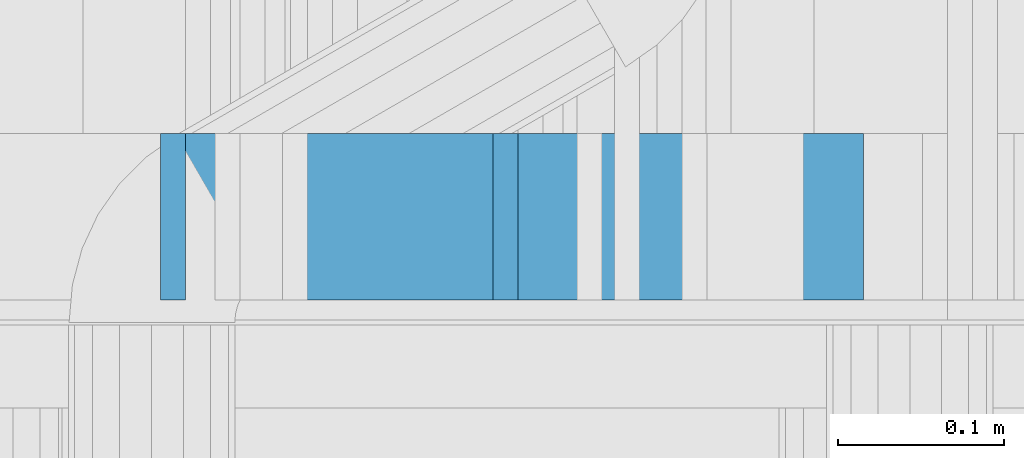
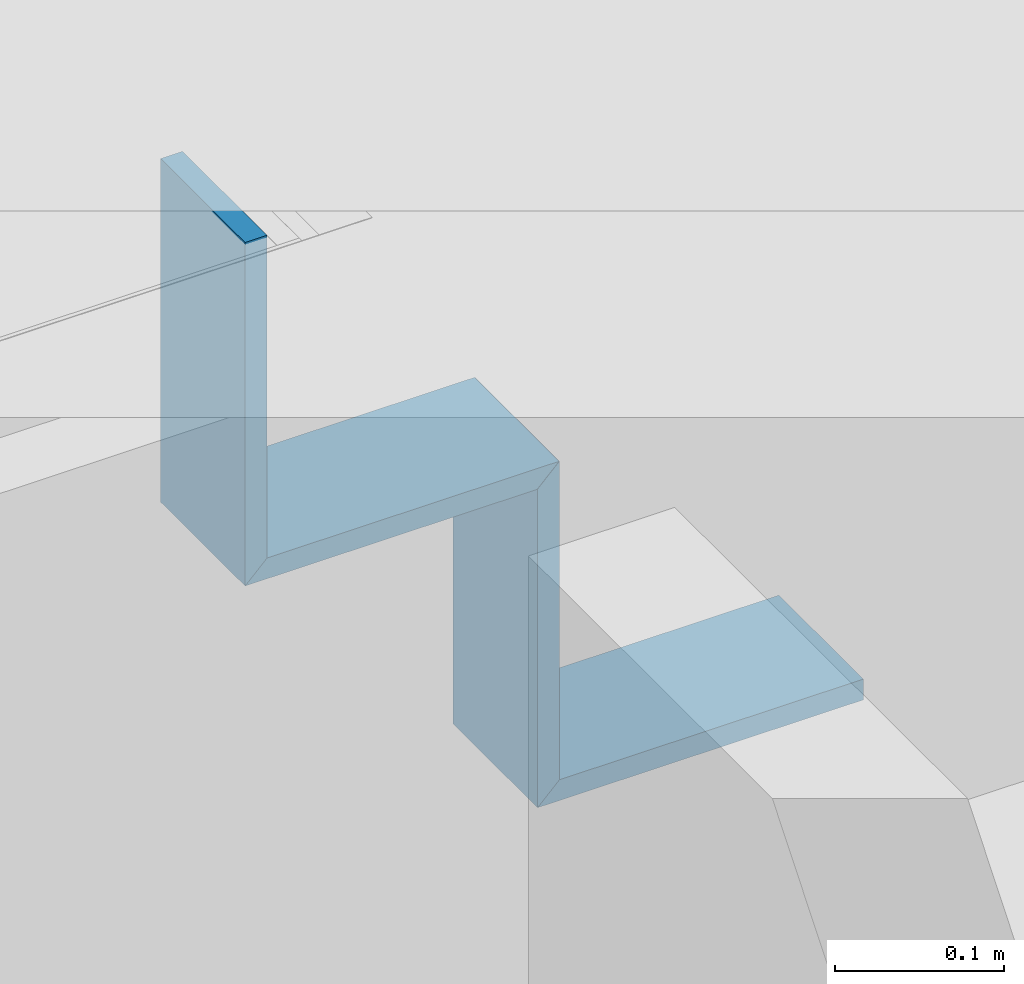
# One storey, part 184 of 583: 4 building element parts, 4 elements without a shape of their own.
"""IFC2X3 building model written with IfcOpenShell, lengths in metres."""

import ifcopenshell
import ifcopenshell.guid

model = None  # the IFC model being written
_history = None  # IfcOwnerHistory: only IFC2X3 demands one
_inside = {}  # id of a spatial element -> (the spatial element, [elements in it])
_under = {}  # id of a project, library or spatial element -> (it, [spatial elements below it])
_declared = {}  # id of a project -> (the project, [libraries it declares])
_typed = {}  # id of a type object -> (the type object, [elements of that type])
_made_of = {}  # id of a material, layer set ... -> (it, [elements and type objects made of it])


def new_model(schema):
    """Start an empty IFC model of exactly this schema.

    Asked for "IFC4X3", IfcOpenShell would pick the latest addendum, in which some entities
    have other attributes; the version numbers below select the first issue.
    IFC2X3 requires an IfcOwnerHistory on every rooted entity: one is made here for all.
    """
    global model, _history
    if schema == "IFC4X3":
        model = ifcopenshell.file(schema_version=(4, 3, 0, 0))
    else:
        model = ifcopenshell.file(schema=schema)
    _inside.clear()
    _under.clear()
    _declared.clear()
    _typed.clear()
    _made_of.clear()
    _history = None
    if model.schema == "IFC2X3":
        org = make("IfcOrganization", Name="unknown")
        user = make(
            "IfcPersonAndOrganization",
            ThePerson=make("IfcPerson", FamilyName="unknown"),
            TheOrganization=org,
        )
        app = make(
            "IfcApplication",
            ApplicationDeveloper=org,
            Version="unknown",
            ApplicationFullName="unknown",
            ApplicationIdentifier="unknown",
        )
        _history = make(
            "IfcOwnerHistory",
            OwningUser=user,
            OwningApplication=app,
            ChangeAction="ADDED",
            CreationDate=0,
        )
    return model


def make(cls, **values):
    """One entity of the class cls with the attributes given. An attribute that is None is left unset."""
    return model.create_entity(
        cls, **{name: value for name, value in values.items() if value is not None}
    )


def entity(cls, *values):
    """Any entity or typed value of the class cls, its attributes in the order of the schema. None: left unset."""
    e = model.create_entity(cls)
    for i, value in enumerate(values):
        if value is not None:
            e[i] = value
    return e


def rooted(cls, **values):
    """An entity with a GlobalId (a new one), such as an element, a storey or a relation."""
    return make(cls, GlobalId=ifcopenshell.guid.new(), OwnerHistory=_history, **values)


def si_unit(unit_type, name, prefix=None):
    """IfcSIUnit, for example si_unit("LENGTHUNIT", "METRE", prefix="MILLI")."""
    return make("IfcSIUnit", UnitType=unit_type, Prefix=prefix, Name=name)


def converted_unit(unit_type, name, factor, base, dimensions=None, offset=None):
    """IfcConversionBasedUnit, such as the inch: factor (a typed value) times the base unit."""
    return make(
        "IfcConversionBasedUnit"
        if offset is None
        else "IfcConversionBasedUnitWithOffset",
        ConversionOffset=offset,
        Dimensions=None
        if dimensions is None
        else entity("IfcDimensionalExponents", *dimensions),
        UnitType=unit_type,
        Name=name,
        ConversionFactor=make(
            "IfcMeasureWithUnit", ValueComponent=factor, UnitComponent=base
        ),
    )


def derived_unit(unit_type, elements):
    """IfcDerivedUnit: a product of units, each with its exponent."""
    return make(
        "IfcDerivedUnit",
        Elements=[
            make("IfcDerivedUnitElement", Unit=unit, Exponent=power)
            for unit, power in elements
        ],
        UnitType=unit_type,
    )


def money_unit(currency):
    """IfcMonetaryUnit."""
    return make("IfcMonetaryUnit", Currency=currency)


def assignment(units):
    """IfcUnitAssignment: the units of a project."""
    return None if units is None else make("IfcUnitAssignment", Units=units)


def point(xyz):
    """IfcCartesianPoint."""
    return None if xyz is None else make("IfcCartesianPoint", Coordinates=xyz)


def direction(xyz):
    """IfcDirection."""
    return None if xyz is None else make("IfcDirection", DirectionRatios=xyz)


def frame(location, z_axis=None, x_axis=None):
    """IfcAxis2Placement3D, a coordinate frame: its origin and axes. An axis left out is left unset."""
    return make(
        "IfcAxis2Placement3D",
        Location=point(location),
        Axis=direction(z_axis),
        RefDirection=direction(x_axis),
    )


def origin_with_axes():
    """The frame at (0, 0, 0) with the z axis (0, 0, 1) and the x axis (1, 0, 0) written out."""
    return frame((0.0, 0.0, 0.0), z_axis=(0.0, 0.0, 1.0), x_axis=(1.0, 0.0, 0.0))


def place(relative_to, where):
    """IfcLocalPlacement: puts the frame where relative to a parent placement (None: the world)."""
    return make(
        "IfcLocalPlacement", PlacementRelTo=relative_to, RelativePlacement=where
    )


def context(
    kind, dimensions, precision=None, world=None, true_north=None, identifier=None
):
    """IfcGeometricRepresentationContext, for example the 3D "Model" context."""
    return make(
        "IfcGeometricRepresentationContext",
        ContextIdentifier=identifier,
        ContextType=kind,
        CoordinateSpaceDimension=dimensions,
        Precision=precision,
        WorldCoordinateSystem=world,
        TrueNorth=true_north,
    )


def subcontext(parent, identifier, kind, view, scale=None):
    """IfcGeometricRepresentationSubContext, for example "Body" below "Model"."""
    return make(
        "IfcGeometricRepresentationSubContext",
        ContextIdentifier=identifier,
        ContextType=kind,
        ParentContext=parent,
        TargetScale=scale,
        TargetView=view,
    )


def project(units=None, contexts=None):
    """IfcProject with its units and contexts."""
    return rooted(
        "IfcProject",
        Name="project",
        RepresentationContexts=contexts,
        UnitsInContext=assignment(units),
    )


def spatial(cls, under=None, at=None, **own):
    """A site, building, storey or space (cls), placed at a placement, below another one or the project."""
    s = rooted(cls, ObjectPlacement=at, **own)
    if under is not None:
        _under.setdefault(under.id(), (under, []))[1].append(s)
    return s


def polyline(points):
    """IfcPolyline through the points."""
    return make("IfcPolyline", Points=[point(p) for p in points])


def outline(outer, holes=None, kind="AREA"):
    """IfcArbitraryClosedProfileDef: a profile drawn as a closed curve; with holes, ...WithVoids."""
    if holes is None:
        return make("IfcArbitraryClosedProfileDef", ProfileType=kind, OuterCurve=outer)
    return make(
        "IfcArbitraryProfileDefWithVoids",
        ProfileType=kind,
        OuterCurve=outer,
        InnerCurves=holes,
    )


def extrude(swept, where, along, depth):
    """IfcExtrudedAreaSolid: the profile swept, set in the frame where, extruded along a direction by depth."""
    return make(
        "IfcExtrudedAreaSolid",
        SweptArea=swept,
        Position=where,
        ExtrudedDirection=direction(along),
        Depth=depth,
    )


def shape(context_of_items, identifier, shape_type, items):
    """IfcShapeRepresentation: the items that make up one representation, for example the "Body"."""
    return make(
        "IfcShapeRepresentation",
        ContextOfItems=context_of_items,
        RepresentationIdentifier=identifier,
        RepresentationType=shape_type,
        Items=items,
    )


def material(Name=None, Category=None):
    """IfcMaterial."""
    return make("IfcMaterial", Name=Name, Category=Category)


def made_of(thing, what):
    """Note that an element or type object is made of a material, layer set ...; save() writes the relation."""
    if what is not None:
        _made_of.setdefault(what.id(), (what, []))[1].append(thing)
    return thing


def type_object(cls, material=None, **own):
    """A type object (cls), such as IfcWallType, which elements share."""
    return made_of(rooted(cls, **own), material)


def element(
    cls,
    number,
    at=None,
    inside=None,
    cuts=None,
    type_object=None,
    material=None,
    context=None,
    identifier="Body",
    shape_type=None,
    held_by="IfcProductDefinitionShape",
    body=None,
    shapes=None,
    **own,
):
    """One element of the class cls, such as IfcWall. Its Tag is "e" and its number.

    at: its placement. inside: the storey or other place that contains it. cuts: it is an
    opening in that element (IfcRelVoidsElement). A single representation is given by context,
    identifier, shape_type and body (its items); several are given by shapes. held_by: the class
    of the entity that holds the representations. save() writes the other relations.
    """
    e = rooted(cls, Tag="e%d" % number, ObjectPlacement=at, **own)
    if body is not None:
        shapes = [shape(context, identifier, shape_type, body)]
    if shapes is not None:
        e.Representation = make(held_by, Representations=shapes)
    if inside is not None:
        _inside.setdefault(inside.id(), (inside, []))[1].append(e)
    if cuts is not None:
        rooted(
            "IfcRelVoidsElement", RelatingBuildingElement=cuts, RelatedOpeningElement=e
        )
    if type_object is not None:
        _typed.setdefault(type_object.id(), (type_object, []))[1].append(e)
    return made_of(e, material)


def aggregate(whole, parts):
    """IfcRelAggregates: a whole, such as a stair, and the parts it consists of."""
    return rooted("IfcRelAggregates", RelatingObject=whole, RelatedObjects=parts)


def save(model, path):
    """Write the relations noted so far, then the file.

    IfcRelAggregates (storeys below a building ...), IfcRelContainedInSpatialStructure (elements
    in a storey), IfcRelDefinesByType, IfcRelAssociatesMaterial and IfcRelDeclares: one each for
    every whole, place, type object, material and project.
    """
    for whole, parts in _under.values():
        aggregate(whole, parts)
    for where, things in _inside.values():
        rooted(
            "IfcRelContainedInSpatialStructure",
            RelatedElements=things,
            RelatingStructure=where,
        )
    for kind, things in _typed.values():
        rooted("IfcRelDefinesByType", RelatedObjects=things, RelatingType=kind)
    for what, things in _made_of.values():
        rooted("IfcRelAssociatesMaterial", RelatedObjects=things, RelatingMaterial=what)
    for by, libraries in _declared.values():
        rooted("IfcRelDeclares", RelatingContext=by, RelatedDefinitions=libraries)
    model.write(path)


model = new_model("IFC2X3")

# Units and contexts
model_context = context("Model", 3, precision=1e-05, world=origin_with_axes(), true_north=direction((0.0, 1.0)))
body_context = subcontext(model_context, "Body", "Model", "MODEL_VIEW", scale=1.0)
ifc_project = project(units=[si_unit("LENGTHUNIT", "METRE"), si_unit("AREAUNIT", "SQUARE_METRE"), si_unit("VOLUMEUNIT", "CUBIC_METRE"), si_unit("ABSORBEDDOSEUNIT", "GRAY"), si_unit("AMOUNTOFSUBSTANCEUNIT", "MOLE"), si_unit("DOSEEQUIVALENTUNIT", "SIEVERT"), si_unit("ELECTRICCAPACITANCEUNIT", "FARAD"), si_unit("ELECTRICCHARGEUNIT", "COULOMB"), si_unit("ELECTRICCONDUCTANCEUNIT", "SIEMENS"), si_unit("ELECTRICCURRENTUNIT", "AMPERE"), si_unit("ELECTRICRESISTANCEUNIT", "OHM"), si_unit("ELECTRICVOLTAGEUNIT", "VOLT"), si_unit("ENERGYUNIT", "JOULE"), si_unit("FORCEUNIT", "NEWTON"), si_unit("FREQUENCYUNIT", "HERTZ"), si_unit("ILLUMINANCEUNIT", "LUX"), si_unit("INDUCTANCEUNIT", "HENRY"), si_unit("LUMINOUSFLUXUNIT", "LUMEN"), si_unit("LUMINOUSINTENSITYUNIT", "CANDELA"), si_unit("MAGNETICFLUXDENSITYUNIT", "TESLA"), si_unit("MAGNETICFLUXUNIT", "WEBER"), si_unit("MASSUNIT", "GRAM"), converted_unit("PLANEANGLEUNIT", "degree", entity("IfcReal", 0.0174532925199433), si_unit("PLANEANGLEUNIT", "RADIAN"), dimensions=[0, 0, 0, 0, 0, 0, 0]), si_unit("POWERUNIT", "WATT"), si_unit("PRESSUREUNIT", "PASCAL"), si_unit("RADIOACTIVITYUNIT", "BECQUEREL"), si_unit("SOLIDANGLEUNIT", "STERADIAN"), si_unit("THERMODYNAMICTEMPERATUREUNIT", "KELVIN"), si_unit("TIMEUNIT", "SECOND"), derived_unit("ACCELERATIONUNIT", [(si_unit("LENGTHUNIT", "METRE"), 1), (si_unit("TIMEUNIT", "SECOND"), -2)]), derived_unit("ANGULARVELOCITYUNIT", [(converted_unit("PLANEANGLEUNIT", "degree", entity("IfcReal", 0.0174532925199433), si_unit("PLANEANGLEUNIT", "RADIAN"), dimensions=[0, 0, 0, 0, 0, 0, 0]), 1), (si_unit("TIMEUNIT", "SECOND"), -1)]), derived_unit("CURVATUREUNIT", [(converted_unit("PLANEANGLEUNIT", "degree", entity("IfcReal", 0.0174532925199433), si_unit("PLANEANGLEUNIT", "RADIAN"), dimensions=[0, 0, 0, 0, 0, 0, 0]), 1), (si_unit("LENGTHUNIT", "METRE"), -1)]), derived_unit("DYNAMICVISCOSITYUNIT", [(si_unit("PRESSUREUNIT", "PASCAL"), 1), (si_unit("TIMEUNIT", "SECOND"), 1)]), derived_unit("HEATFLUXDENSITYUNIT", [(si_unit("POWERUNIT", "WATT"), 1), (si_unit("LENGTHUNIT", "METRE"), -2)]), derived_unit("HEATINGVALUEUNIT", [(si_unit("ENERGYUNIT", "JOULE"), 1), (si_unit("MASSUNIT", "GRAM"), -1)]), derived_unit("INTEGERCOUNTRATEUNIT", [(si_unit("TIMEUNIT", "SECOND"), -1)]), derived_unit("IONCONCENTRATIONUNIT", [(si_unit("MASSUNIT", "GRAM"), 1), (si_unit("VOLUMEUNIT", "CUBIC_METRE"), -1)]), derived_unit("ISOTHERMALMOISTURECAPACITYUNIT", [(si_unit("VOLUMEUNIT", "CUBIC_METRE"), 1), (si_unit("MASSUNIT", "GRAM"), -1)]), derived_unit("KINEMATICVISCOSITYUNIT", [(si_unit("AREAUNIT", "SQUARE_METRE"), 1), (si_unit("TIMEUNIT", "SECOND"), -1)]), derived_unit("LINEARFORCEUNIT", [(si_unit("FORCEUNIT", "NEWTON"), 1), (si_unit("LENGTHUNIT", "METRE"), -1)]), derived_unit("LINEARMOMENTUNIT", [(si_unit("FORCEUNIT", "NEWTON"), 1), (si_unit("LENGTHUNIT", "METRE"), -1)]), derived_unit("LINEARSTIFFNESSUNIT", [(si_unit("FORCEUNIT", "NEWTON"), 1), (si_unit("LENGTHUNIT", "METRE"), -1)]), derived_unit("LINEARVELOCITYUNIT", [(si_unit("LENGTHUNIT", "METRE"), 1), (si_unit("TIMEUNIT", "SECOND"), -1)]), derived_unit("LUMINOUSINTENSITYDISTRIBUTIONUNIT", [(si_unit("LUMINOUSINTENSITYUNIT", "CANDELA"), 1), (si_unit("LUMINOUSFLUXUNIT", "LUMEN"), -1)]), derived_unit("MASSDENSITYUNIT", [(si_unit("MASSUNIT", "GRAM"), 1), (si_unit("VOLUMEUNIT", "CUBIC_METRE"), -1)]), derived_unit("MASSFLOWRATEUNIT", [(si_unit("MASSUNIT", "GRAM"), 1), (si_unit("TIMEUNIT", "SECOND"), -1)]), derived_unit("MASSPERLENGTHUNIT", [(si_unit("MASSUNIT", "GRAM"), 1), (si_unit("LENGTHUNIT", "METRE"), -1)]), derived_unit("MODULUSOFELASTICITYUNIT", [(si_unit("FORCEUNIT", "NEWTON"), 1), (si_unit("AREAUNIT", "SQUARE_METRE"), -1)]), derived_unit("MODULUSOFLINEARSUBGRADEREACTIONUNIT", [(si_unit("FORCEUNIT", "NEWTON"), 1), (si_unit("LENGTHUNIT", "METRE"), -2)]), derived_unit("MODULUSOFROTATIONALSUBGRADEREACTIONUNIT", [(si_unit("FORCEUNIT", "NEWTON"), 1), (si_unit("LENGTHUNIT", "METRE"), 1)]), derived_unit("MODULUSOFSUBGRADEREACTIONUNIT", [(si_unit("FORCEUNIT", "NEWTON"), 1), (si_unit("VOLUMEUNIT", "CUBIC_METRE"), -1)]), derived_unit("MOISTUREDIFFUSIVITYUNIT", [(si_unit("VOLUMEUNIT", "CUBIC_METRE"), 1), (si_unit("TIMEUNIT", "SECOND"), -1)]), derived_unit("MOLECULARWEIGHTUNIT", [(si_unit("MASSUNIT", "GRAM"), 1), (si_unit("AMOUNTOFSUBSTANCEUNIT", "MOLE"), -1)]), derived_unit("PLANARFORCEUNIT", [(si_unit("FORCEUNIT", "NEWTON"), 1), (si_unit("LENGTHUNIT", "METRE"), -2)]), derived_unit("ROTATIONALFREQUENCYUNIT", [(si_unit("TIMEUNIT", "SECOND"), -1)]), derived_unit("ROTATIONALMASSUNIT", [(si_unit("MASSUNIT", "GRAM"), 1), (si_unit("LENGTHUNIT", "METRE"), 2)]), derived_unit("ROTATIONALSTIFFNESSUNIT", [(si_unit("FORCEUNIT", "NEWTON"), 1), (si_unit("LENGTHUNIT", "METRE"), 1), (converted_unit("PLANEANGLEUNIT", "degree", entity("IfcReal", 0.0174532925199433), si_unit("PLANEANGLEUNIT", "RADIAN"), dimensions=[0, 0, 0, 0, 0, 0, 0]), -1)]), derived_unit("SECTIONAREAINTEGRALUNIT", [(si_unit("LENGTHUNIT", "METRE"), 5)]), derived_unit("SECTIONMODULUSUNIT", [(si_unit("LENGTHUNIT", "METRE"), 3)]), derived_unit("SHEARMODULUSUNIT", [(si_unit("FORCEUNIT", "NEWTON"), 1), (si_unit("AREAUNIT", "SQUARE_METRE"), -1)]), derived_unit("SOUNDPOWERUNIT", [(si_unit("ENERGYUNIT", "JOULE"), 1), (si_unit("TIMEUNIT", "SECOND"), -1)]), derived_unit("SPECIFICHEATCAPACITYUNIT", [(si_unit("FORCEUNIT", "NEWTON"), 1), (si_unit("MASSUNIT", "GRAM"), -1), (si_unit("THERMODYNAMICTEMPERATUREUNIT", "KELVIN"), -1)]), derived_unit("TEMPERATUREGRADIENTUNIT", [(si_unit("THERMODYNAMICTEMPERATUREUNIT", "KELVIN"), 1), (si_unit("LENGTHUNIT", "METRE"), -1)]), derived_unit("THERMALADMITTANCEUNIT", [(si_unit("POWERUNIT", "WATT"), 1), (si_unit("AREAUNIT", "SQUARE_METRE"), -1), (si_unit("THERMODYNAMICTEMPERATUREUNIT", "KELVIN"), -1)]), derived_unit("THERMALCONDUCTANCEUNIT", [(si_unit("POWERUNIT", "WATT"), 1), (si_unit("LENGTHUNIT", "METRE"), -1), (si_unit("THERMODYNAMICTEMPERATUREUNIT", "KELVIN"), -1)]), derived_unit("THERMALEXPANSIONCOEFFICIENTUNIT", [(si_unit("THERMODYNAMICTEMPERATUREUNIT", "KELVIN"), -1)]), derived_unit("THERMALRESISTANCEUNIT", [(si_unit("AREAUNIT", "SQUARE_METRE"), 1), (si_unit("POWERUNIT", "WATT"), -1)]), derived_unit("THERMALTRANSMITTANCEUNIT", [(si_unit("POWERUNIT", "WATT"), 1), (si_unit("AREAUNIT", "SQUARE_METRE"), -1), (si_unit("THERMODYNAMICTEMPERATUREUNIT", "KELVIN"), -1)]), derived_unit("TORQUEUNIT", [(si_unit("FORCEUNIT", "NEWTON"), 1), (si_unit("LENGTHUNIT", "METRE"), 1)]), derived_unit("VAPORPERMEABILITYUNIT", [(si_unit("MASSUNIT", "GRAM"), 1), (si_unit("TIMEUNIT", "SECOND"), -1)]), derived_unit("VOLUMETRICFLOWRATEUNIT", [(si_unit("VOLUMEUNIT", "CUBIC_METRE"), 1), (si_unit("TIMEUNIT", "SECOND"), -1)]), derived_unit("WARPINGCONSTANTUNIT", [(si_unit("LENGTHUNIT", "METRE"), 6)]), derived_unit("WARPINGMOMENTUNIT", [(si_unit("FORCEUNIT", "NEWTON"), 1), (si_unit("LENGTHUNIT", "METRE"), 2)]), money_unit("GBP")], contexts=[model_context])

# Site, building, storey
site_placement = place(None, origin_with_axes())
site = spatial("IfcSite", under=ifc_project, at=site_placement, Name="Site", CompositionType="ELEMENT")
building_placement = place(site_placement, origin_with_axes())
building = spatial("IfcBuilding", under=site, at=building_placement, Name="Building01", CompositionType="ELEMENT")
storey_placement = place(building_placement, frame((0.0, 0.0, 20.78), z_axis=(0.0, 0.0, 1.0), x_axis=(1.0, 0.0, 0.0)))
storey = spatial("IfcBuildingStorey", under=building, at=storey_placement, Name="RL", CompositionType="ELEMENT", Elevation=20.78)

# Wall, building element part
wall_type = type_object("IfcWallType", Name="SHE_A-Walls_Type06f_ExternalWallInsulation_48+15mm", PredefinedType="NOTDEFINED")
wall_1_placement = place(storey_placement, frame((8.182326, 5.15, 6.1), z_axis=(0.0, 1.0, 0.0), x_axis=(0.0, 0.0, -1.0)))
wall_1 = element("IfcWall", 1, at=wall_1_placement, inside=storey, type_object=wall_type, Name="6F", ObjectType="SHE_A-Walls_Type06f_ExternalWallInsulation_48+15mm")
ifc_material = material(Name="A_BSUK_Walls_Timber")
building_element_part_1_placement = place(wall_1_placement, origin_with_axes())
building_element_part_1 = element("IfcBuildingElementPart", 2, at=building_element_part_1_placement, material=ifc_material, Name="2", context=body_context, shape_type="SweptSolid", body=[
    extrude(outline(polyline([(0.248, 0.06), (0.0, 0.06), (0.0, 0.045), (0.233, 0.045), (0.248, 0.06)])), frame((0.0, 0.0, 0.015), z_axis=(0.0, 0.0, 1.0), x_axis=(1.0, 0.0, 0.0)), (0.0, 0.0, 1.0), 0.1),
])
aggregate(wall_1, [building_element_part_1])

wall_2_placement = place(storey_placement, frame((8.182326, 5.15, 5.912), z_axis=(0.0, 1.0, 0.0), x_axis=(1.0, 0.0, 0.0)))
wall_2 = element("IfcWall", 3, at=wall_2_placement, inside=storey, type_object=wall_type, Name="6F", ObjectType="SHE_A-Walls_Type06f_ExternalWallInsulation_48+15mm")
building_element_part_2_placement = place(wall_2_placement, origin_with_axes())
building_element_part_2 = element("IfcBuildingElementPart", 4, at=building_element_part_2_placement, material=ifc_material, Name="2", context=body_context, shape_type="SweptSolid", body=[
    extrude(outline(polyline([(0.139674, 0.06), (-0.06, 0.06), (-0.045, 0.045), (0.154674, 0.045), (0.139674, 0.06)])), frame((0.0, 0.0, 0.015), z_axis=(0.0, 0.0, 1.0), x_axis=(1.0, 0.0, 0.0)), (0.0, 0.0, 1.0), 0.1),
])
aggregate(wall_2, [building_element_part_2])

wall_3_placement = place(storey_placement, frame((8.382, 5.15, 5.912), z_axis=(0.0, 1.0, 0.0), x_axis=(0.0, 0.0, -1.0)))
wall_3 = element("IfcWall", 5, at=wall_3_placement, inside=storey, type_object=wall_type, Name="6F", ObjectType="SHE_A-Walls_Type06f_ExternalWallInsulation_48+15mm")
building_element_part_3_placement = place(wall_3_placement, origin_with_axes())
building_element_part_3 = element("IfcBuildingElementPart", 6, at=building_element_part_3_placement, material=ifc_material, Name="2", context=body_context, shape_type="SweptSolid", body=[
    extrude(outline(polyline([(0.29, 0.06), (0.06, 0.06), (0.045, 0.045), (0.275, 0.045), (0.29, 0.06)])), frame((0.0, 0.0, 0.015), z_axis=(0.0, 0.0, 1.0), x_axis=(1.0, 0.0, 0.0)), (0.0, 0.0, 1.0), 0.1),
])
aggregate(wall_3, [building_element_part_3])

wall_4_placement = place(storey_placement, frame((8.382, 5.15, 5.682), z_axis=(0.0, 1.0, 0.0), x_axis=(1.0, 0.0, 0.0)))
wall_4 = element("IfcWall", 7, at=wall_4_placement, inside=storey, type_object=wall_type, Name="6F", ObjectType="SHE_A-Walls_Type06f_ExternalWallInsulation_48+15mm")
building_element_part_4_placement = place(wall_4_placement, origin_with_axes())
building_element_part_4 = element("IfcBuildingElementPart", 8, at=building_element_part_4_placement, material=ifc_material, Name="2", context=body_context, shape_type="SweptSolid", body=[
    extrude(outline(polyline([(-0.06, 0.06), (-0.045, 0.045), (0.16257, 0.045), (0.16257, 0.06), (-0.06, 0.06)])), frame((0.0, 0.0, 0.015), z_axis=(0.0, 0.0, 1.0), x_axis=(1.0, 0.0, 0.0)), (0.0, 0.0, 1.0), 0.1),
])
aggregate(wall_4, [building_element_part_4])

save(model, "model.ifc")
